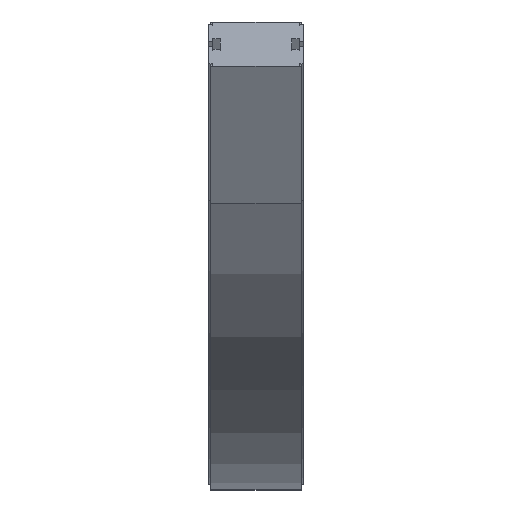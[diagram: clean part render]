
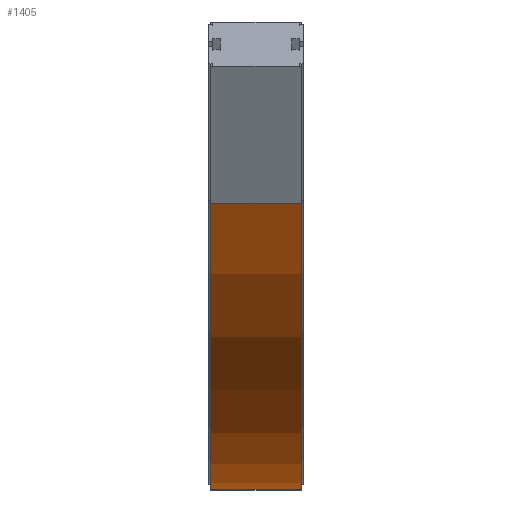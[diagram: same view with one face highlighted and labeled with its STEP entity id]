
A CAD part, top view. The second image highlights one B-rep face of the part: STEP entity #1405.
In plain terms, the highlighted cylindrical face has radius 542 mm (diameter 1084 mm), a partial arc.
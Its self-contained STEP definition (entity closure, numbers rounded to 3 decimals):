
#79 = AXIS2_PLACEMENT_3D ( 'NONE', #2030, #2031, #2032 ) ;
#255 = CIRCLE ( 'NONE', #2988, 542. ) ;
#288 = EDGE_LOOP ( 'NONE', ( #1204, #1205, #1206, #1207 ) ) ;
#306 = VECTOR ( 'NONE', #1710, 1000. ) ;
#360 = LINE ( 'NONE', #1711, #306 ) ;
#577 = DIRECTION ( 'NONE',  ( 0., 0., 1. ) ) ;
#578 = CARTESIAN_POINT ( 'NONE',  ( 0., 500., 150. ) ) ;
#579 = DIRECTION ( 'NONE',  ( -1., 0., 0. ) ) ;
#758 = FACE_OUTER_BOUND ( 'NONE', #288, .T. ) ;
#759 = CYLINDRICAL_SURFACE ( 'NONE', #1350, 542. ) ;
#826 = EDGE_CURVE ( 'NONE', #2647, #2736, #255, .T. ) ;
#1204 = ORIENTED_EDGE ( 'NONE', *, *, #2986, .F. ) ;
#1205 = ORIENTED_EDGE ( 'NONE', *, *, #826, .T. ) ;
#1206 = ORIENTED_EDGE ( 'NONE', *, *, #3064, .T. ) ;
#1207 = ORIENTED_EDGE ( 'NONE', *, *, #3137, .F. ) ;
#1350 = AXIS2_PLACEMENT_3D ( 'NONE', #578, #579, #577 ) ;
#1405 = ADVANCED_FACE ( 'NONE', ( #758 ), #759, .T. ) ;
#1582 = CARTESIAN_POINT ( 'NONE',  ( 43.15, -42., 150. ) ) ;
#1590 = CARTESIAN_POINT ( 'NONE',  ( -43.15, -42., 150. ) ) ;
#1646 = CARTESIAN_POINT ( 'NONE',  ( -43.15, 229., 619.386 ) ) ;
#1671 = CARTESIAN_POINT ( 'NONE',  ( 43.15, 229., 619.386 ) ) ;
#1710 = DIRECTION ( 'NONE',  ( -1., 0., 0. ) ) ;
#1711 = CARTESIAN_POINT ( 'NONE',  ( -43.15, -42., 150. ) ) ;
#1855 = CARTESIAN_POINT ( 'NONE',  ( -43.15, 229., 619.386 ) ) ;
#1856 = DIRECTION ( 'NONE',  ( -1., 0., 0. ) ) ;
#2030 = CARTESIAN_POINT ( 'NONE',  ( -43.15, 500., 150. ) ) ;
#2031 = DIRECTION ( 'NONE',  ( -1., 0., 0. ) ) ;
#2032 = DIRECTION ( 'NONE',  ( 0., 0., 1. ) ) ;
#2132 = LINE ( 'NONE', #1855, #2135 ) ;
#2135 = VECTOR ( 'NONE', #1856, 1000. ) ;
#2247 = CIRCLE ( 'NONE', #79, 542. ) ;
#2535 = DIRECTION ( 'NONE',  ( 0., 0., 1. ) ) ;
#2536 = DIRECTION ( 'NONE',  ( -1., 0., 0. ) ) ;
#2546 = CARTESIAN_POINT ( 'NONE',  ( 43.15, 500., 150. ) ) ;
#2647 = VERTEX_POINT ( 'NONE', #1582 ) ;
#2655 = VERTEX_POINT ( 'NONE', #1590 ) ;
#2711 = VERTEX_POINT ( 'NONE', #1646 ) ;
#2736 = VERTEX_POINT ( 'NONE', #1671 ) ;
#2986 = EDGE_CURVE ( 'NONE', #2647, #2655, #360, .T. ) ;
#2988 = AXIS2_PLACEMENT_3D ( 'NONE', #2546, #2536, #2535 ) ;
#3064 = EDGE_CURVE ( 'NONE', #2736, #2711, #2132, .T. ) ;
#3137 = EDGE_CURVE ( 'NONE', #2655, #2711, #2247, .T. ) ;
